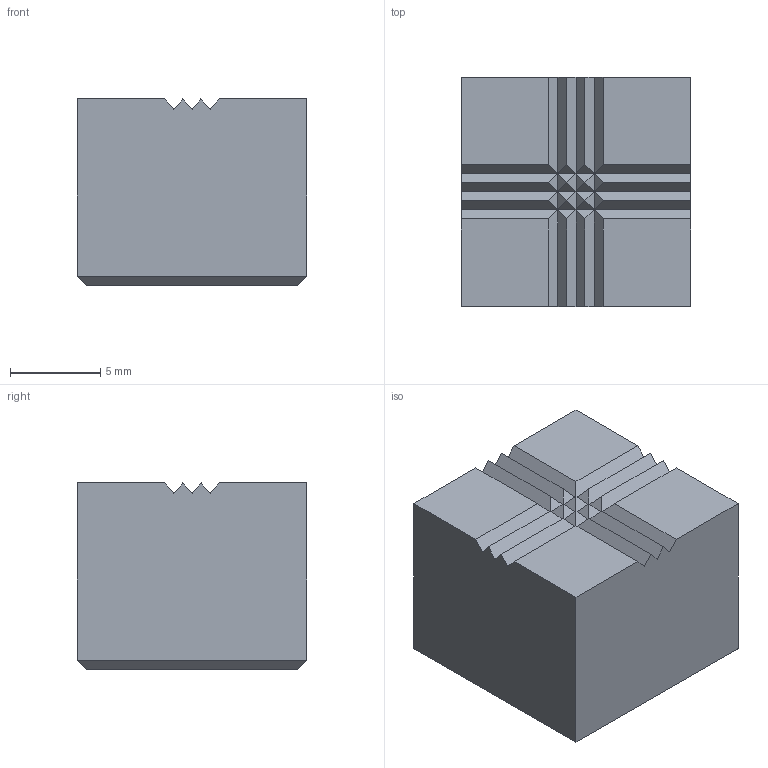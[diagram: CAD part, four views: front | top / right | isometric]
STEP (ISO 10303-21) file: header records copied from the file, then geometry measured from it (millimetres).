
FILE_DESCRIPTION((''),'2;1');
FILE_NAME('3532W002.stp','2001-04-09T10:41:51',(''),(''),'AutoCAD STEP 2000i','AutoCAD 2000i',', , ');
FILE_SCHEMA(('CONFIG_CONTROL_DESIGN'));
Length unit declared in the file: millimetre
Products named in the file (2): 3532A-MDTA; 3532A-MDT
Assembly tree (1 placements, depth 2):
  3532A-MDTA
    3532A-MDT
Bounding box: 12.7 x 12.7 x 10.32 mm (x, y, z)
Volume: 1637.3 mm3; surface area: 865.7 mm2
Topology: 1 solids, 1 shells, 61 faces, 124 edges, 65 vertices
Faces by surface type: plane 61
Entity records: 1603 total; most frequent: CARTESIAN_POINT 252, DIRECTION 250, ORIENTED_EDGE 248, VECTOR 124, LINE 124, EDGE_CURVE 124, VERTEX_POINT 65, AXIS2_PLACEMENT_3D 63
